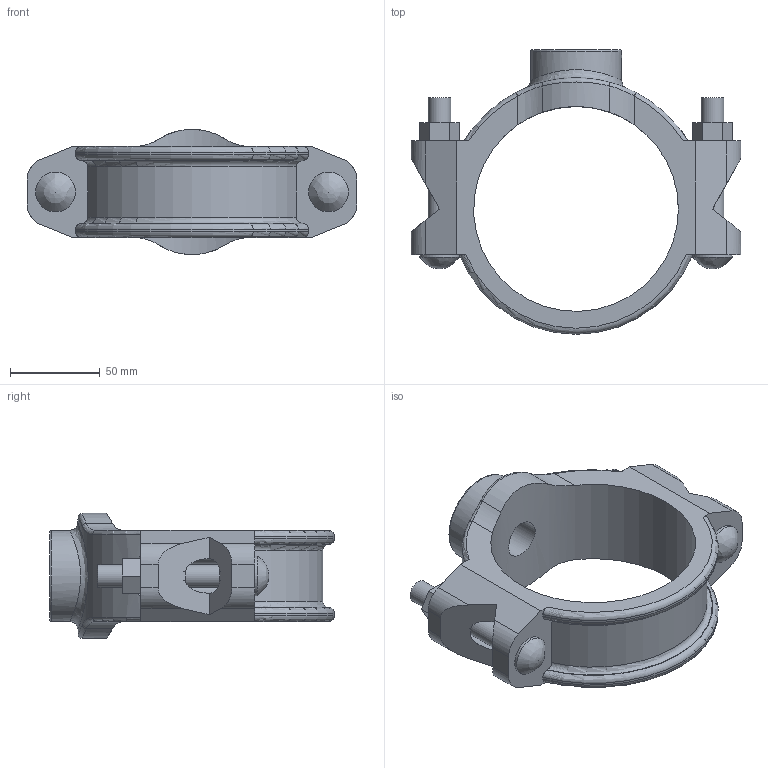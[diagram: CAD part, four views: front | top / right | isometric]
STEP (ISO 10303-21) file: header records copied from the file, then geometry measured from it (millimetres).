
FILE_DESCRIPTION(/* description */ ('VIC SS MECHANICAL T BRANCH OUTLET STYLE 422 (BSPT)','CAx-IF Rec.Pracs.---Representation and Presentation of Product Manufacturing Information (PMI)---4.0---2014-10-13'),/* implementation_level */ '2;1');
FILE_NAME(/* name */ 'C:\Files for Export\422\STEP\Victaulic_SS-OGS_Mech-Tee Out_Style 422 (BSPT)\Victaulic_SS-OGS_Mech-Tee Out_Style 422 (BSPT)_04.0x0.75 (100x20).stp',/* time_stamp */ '2023-03-28T14:26:35+02:00',/* author */ ('jheald'),/* organization */ ('Victaulic'),/* preprocessor_version */ 'ST-DEVELOPER v18.1',/* originating_system */ 'Autodesk Inventor 2020',/* authorisation */ '');
FILE_SCHEMA (('INTEGRATED_CNC_SCHEMA','MODEL_BASED_INTEGRATED_MANUFACTURING_SCHEMA','AP242_MANAGED_MODEL_BASED_3D_ENGINEERING_MIM_LF { 1 0 10303 442 1 1 4 }'));
Length unit declared in the file: inch
Products named in the file (1): 422-04.0x0.75
Bounding box: 184.15 x 158.75 x 69.85 mm (x, y, z)
Volume: 383220 mm3; surface area: 80483.8 mm2
Topology: 1 solids, 1 shells, 102 faces, 296 edges, 196 vertices
Faces by surface type: plane 48, cylinder 34, torus 11, bspline 9
Full cylindrical faces by diameter (mm): 12.7 x4, 20.93 x1, 22.225 x2, 26.67 x1, 50.8 x1, 114.3 x1
Entity records: 4249 total; most frequent: CARTESIAN_POINT 1327, ORIENTED_EDGE 588, DIRECTION 572, EDGE_CURVE 294, AXIS2_PLACEMENT_3D 210, VERTEX_POINT 196, LINE 152, VECTOR 152
